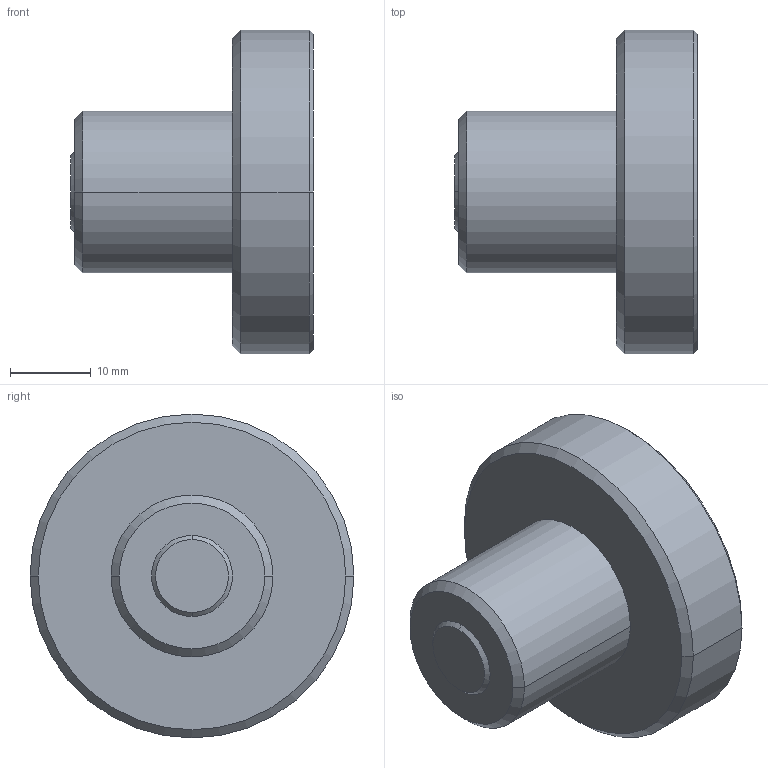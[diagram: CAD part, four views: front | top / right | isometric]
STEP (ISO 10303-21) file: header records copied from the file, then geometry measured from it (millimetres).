
FILE_DESCRIPTION((''),'2;1');
FILE_NAME('S600-5','2006-08-10T',('PAw'),(''),'PRO/ENGINEER BY PARAMETRIC TECHNOLOGY CORPORATION, 2004320','PRO/ENGINEER BY PARAMETRIC TECHNOLOGY CORPORATION, 2004320','');
FILE_SCHEMA(('CONFIG_CONTROL_DESIGN'));
Length unit declared in the file: millimetre
Products named in the file (1): S600-5
Bounding box: 30 x 40 x 40 mm (x, y, z)
Volume: 18620.2 mm3; surface area: 4851.2 mm2
Topology: 1 solids, 1 shells, 16 faces, 30 edges, 18 vertices
Faces by surface type: cone 8, plane 4, cylinder 4
Entity records: 442 total; most frequent: DIRECTION 80, CARTESIAN_POINT 64, ORIENTED_EDGE 60, AXIS2_PLACEMENT_3D 34, EDGE_CURVE 30, VERTEX_POINT 18, EDGE_LOOP 18, CIRCLE 18
